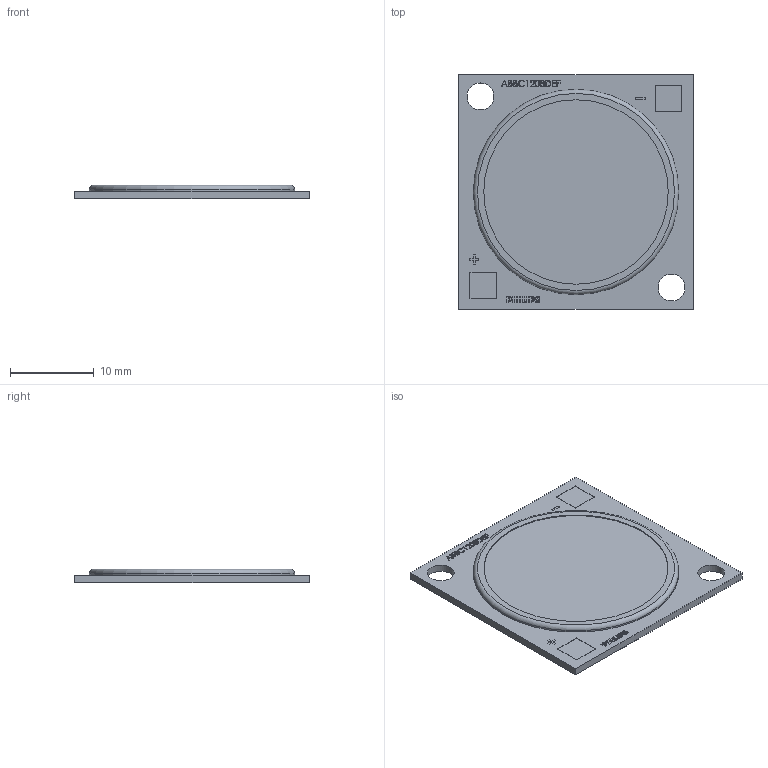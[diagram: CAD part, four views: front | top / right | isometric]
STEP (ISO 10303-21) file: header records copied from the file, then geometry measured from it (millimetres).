
FILE_DESCRIPTION(/* description */ (''),/* implementation_level */ '2;1');
FILE_NAME(/* name */ '1211 1212 1216 G8N 20240722.stp',/* time_stamp */ '2024-08-15T16:13:48+08:00',/* author */ (''),/* organization */ (''),/* preprocessor_version */ 'ST-DEVELOPER v19.4',/* originating_system */ 'SIEMENS PLM Software NX2212.8901',/* authorisation */ '');
FILE_SCHEMA (('AUTOMOTIVE_DESIGN { 1 0 10303 214 3 1 1 1 }'));
Length unit declared in the file: millimetre
Products named in the file (1): 1211 1212 1216 G8N 20240722_objects
Bounding box: 28 x 28 x 1.6 mm (x, y, z)
Volume: 974 mm3; surface area: 1703.4 mm2
Topology: 1 solids, 1 shells, 471 faces, 1300 edges, 867 vertices
Faces by surface type: plane 400, extrusion 66, cylinder 4, torus 1
Full cylindrical faces by diameter (mm): 3.2 x2, 22 x1, 24.5 x1
Entity records: 15441 total; most frequent: CARTESIAN_POINT 3463, ORIENTED_EDGE 2586, DIRECTION 2052, EDGE_CURVE 1293, VECTOR 1218, LINE 1152, VERTEX_POINT 865, EDGE_LOOP 516
